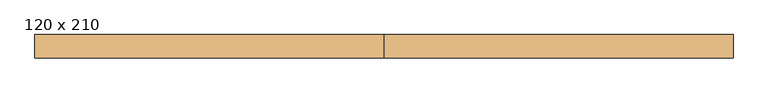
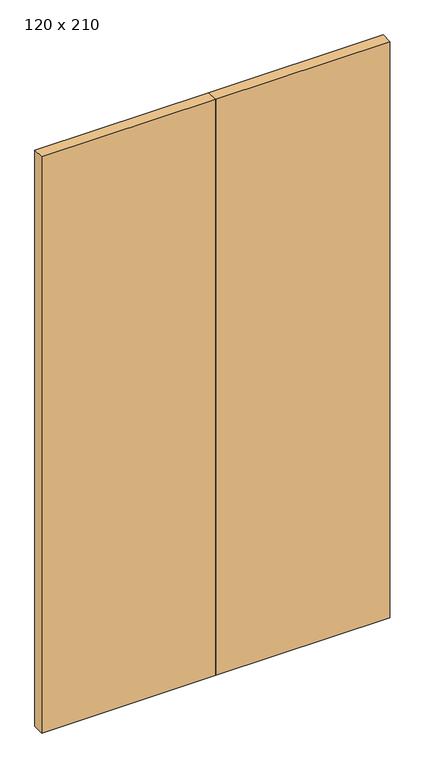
"""IFC4 building model written with IfcOpenShell, lengths in millimetres: door geometry, PORTA PIVOTANTE SEM BATENTES - 2 FOLHAS : 120 x 210."""

from ifc_helpers import new_model, si_unit, origin, origin_with_axes, place, context, project, spatial, polyline, outline, extrude, source, transform, mapped, element, save


def door_120_x_210_413f200e(model_context):
    return source(origin(), model_context, "Body", "SweptSolid", [
        extrude(outline(polyline([(180.0, -75.0), (180.0, -35.0), (780.0, -35.0), (780.0, -75.0), (180.0, -75.0)])), origin_with_axes(), (0.0, 0.0, 1.0), 2100.0),
        extrude(outline(polyline([(180.0, -75.0), (-420.0, -75.0), (-420.0, -35.0), (180.0, -35.0), (180.0, -75.0)])), origin_with_axes(), (0.0, 0.0, 1.0), 2100.0),
    ])


if __name__ == "__main__":
    model = new_model("IFC4")
    model_context = context("Model", 3, world=origin())
    ifc_project = project(units=[si_unit("LENGTHUNIT", "METRE", prefix="MILLI")], contexts=[model_context])
    site = spatial("IfcSite", under=ifc_project)
    building = spatial("IfcBuilding", under=site)
    placement = place(None, origin())
    door_120_x_210_shape = door_120_x_210_413f200e(model_context)
    element("IfcDoor", 1, ObjectType="PORTA PIVOTANTE SEM BATENTES - 2 FOLHAS : 120 x 210", at=placement, inside=building, context=model_context, shape_type="MappedRepresentation", body=[
        mapped(door_120_x_210_shape, transform((0.0, 0.0, 0.0), x_axis=(1.0, 0.0, 0.0), y_axis=(0.0, 1.0, 0.0), z_axis=(0.0, 0.0, 1.0))),
    ])
    save(model, "model.ifc")
